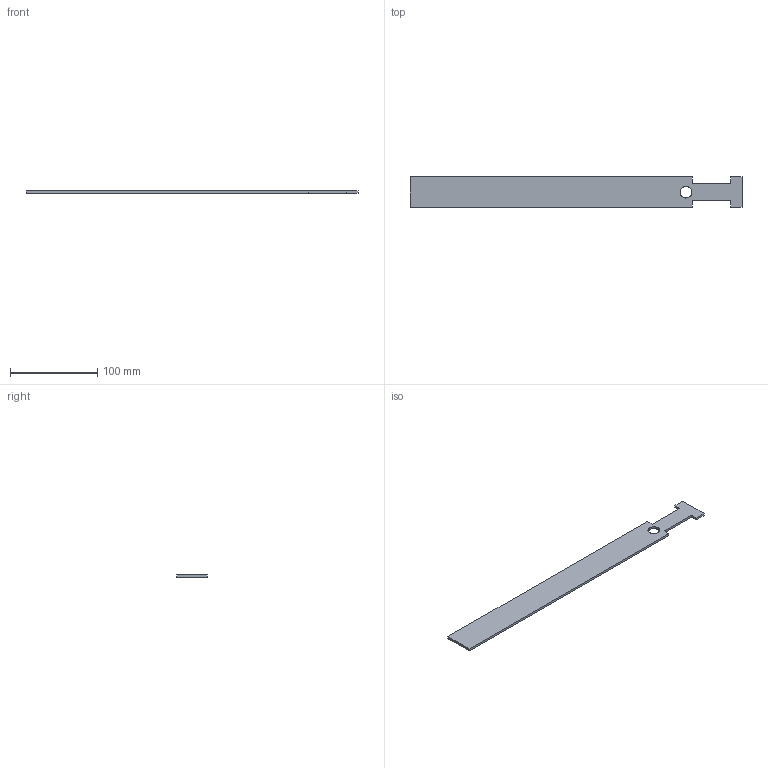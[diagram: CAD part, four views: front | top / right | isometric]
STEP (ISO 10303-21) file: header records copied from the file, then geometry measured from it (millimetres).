
FILE_DESCRIPTION(('TurboCAD Mac Pro'),'Build 980');
FILE_NAME('P1658A.stp',' ',(''),(''),'ACIS Interop','IMSI','TurboCAD Mac Pro BY IMSI, INCORPORATED');
FILE_SCHEMA(('automotive_design'));
Length unit declared in the file: inch
Products named in the file (2): 1; 2
Bounding box: 381 x 34.92 x 2.67 mm (x, y, z)
Volume: 33225.1 mm3; surface area: 27332 mm2
Topology: 1 solids, 1 shells, 18 faces, 48 edges, 32 vertices
Faces by surface type: plane 14, bspline 4
Entity records: 778 total; most frequent: CARTESIAN_POINT 153, ORIENTED_EDGE 96, DIRECTION 73, EDGE_CURVE 48, LINE 41, VECTOR 41, VERTEX_POINT 32, STYLED_ITEM 20
